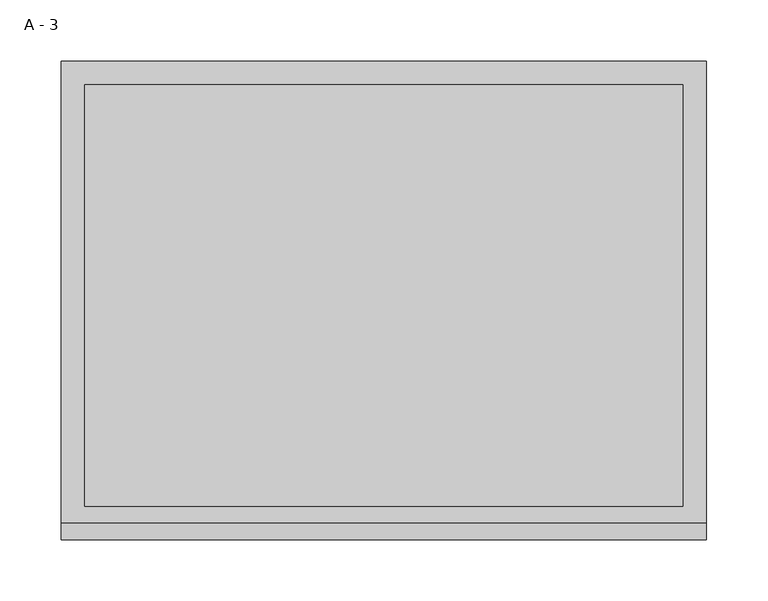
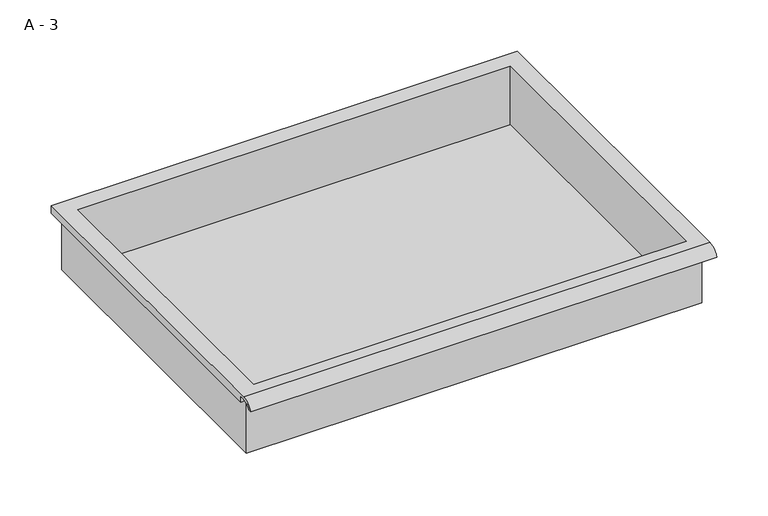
"""IFC4 building model written with IfcOpenShell, lengths in millimetres: furniture geometry, HermanMiller_CoStruc_CO207_Drawer : A - 3."""

from ifc_helpers import new_model, si_unit, frame, origin, place, context, project, spatial, polyline, circle_curve, source, transform, mapped, element, save
from ifc_brep_helpers import plane_surface, cylinder_surface, revolved_surface, advanced_brep


def a_3_2d132fd5(model_context):
    return source(origin(), model_context, "Body", "AdvancedBrep", [
        advanced_brep(
        [(-257.1076517, -176.2125, 854.075), (257.2423483, -176.2125, 854.075), (257.2423483, -176.2125, 917.575), (263.5923483, -176.2125, 917.575), (263.5923483, -176.2125, 923.8821341), (-263.4576517, -176.2125, 923.8821341), (-263.4576517, -176.2125, 917.575), (-257.1076517, -176.2125, 917.575), (257.2423483, 185.7375, 854.075), (-257.1076517, 185.7375, 854.075), (-257.1076517, 185.7375, 917.575), (257.2423483, 185.7375, 917.575), (263.5923483, -181.6070544, 927.1), (263.5923483, 195.2625, 927.1), (-263.4576517, 195.2625, 927.1), (-263.4576517, -181.6070544, 927.1), (244.5423483, -168.275, 927.1), (-244.4076517, -168.275, 927.1), (-244.4076517, 176.2125, 927.1), (244.5423483, 176.2125, 927.1), (263.5923483, -195.2625, 917.575), (263.5923483, -191.8280601, 917.575), (263.5923483, -180.4714815, 923.8821341), (263.5923483, 195.2625, 917.575), (-263.4576517, 195.2625, 917.575), (-263.4576517, -180.4714815, 923.8821341), (-263.4576517, -191.8280601, 917.575), (-263.4576517, -195.2625, 917.575), (-244.4076517, -168.275, 857.1011719), (244.5423483, -168.275, 857.1011719), (244.5423483, 176.2125, 857.1011719), (-244.4076517, 176.2125, 857.1011719)],
        [
            (0, 1),
            (1, 2),
            (2, 3),
            (3, 4),
            (4, 5),
            (5, 6),
            (6, 7),
            (7, 0),
            (8, 9),
            (9, 10),
            (10, 11),
            (11, 8),
            (0, 9),
            (8, 1),
            (11, 2),
            (12, 13),
            (13, 14),
            (14, 15),
            (15, 12),
            (16, 17),
            (17, 18),
            (18, 19),
            (19, 16),
            (7, 10),
            (12, 20, circle_curve(frame((263.5923483, -181.6070544, 912.5489859), z_axis=(1.0, 0.0, 0.0), x_axis=(0.0, 1.0, 0.0)), 14.5510141)),
            (20, 21),
            (21, 22, circle_curve(frame((263.5923483, -181.6070544, 912.5489859), z_axis=(-1.0, 0.0, 0.0), x_axis=(0.0, 1.0, 0.0)), 11.3898979)),
            (22, 4),
            (3, 23),
            (23, 13),
            (14, 24),
            (24, 6),
            (5, 25),
            (25, 26, circle_curve(frame((-263.4576517, -181.6070544, 912.5489859), z_axis=(1.0, 0.0, 0.0), x_axis=(0.0, 1.0, 0.0)), 11.3898979)),
            (26, 27),
            (27, 15, circle_curve(frame((-263.4576517, -181.6070544, 912.5489859), z_axis=(-1.0, 0.0, 0.0), x_axis=(0.0, 1.0, 0.0)), 14.5510141)),
            (27, 20),
            (26, 21),
            (25, 22),
            (24, 23),
            (28, 29),
            (29, 30),
            (30, 31),
            (31, 28),
            (28, 17),
            (16, 29),
            (19, 30),
            (18, 31),
        ],
        [
            plane_surface(frame((257.2423483, -176.2125, 854.075), z_axis=(0.0, -1.0, 0.0), x_axis=(1.0, 0.0, 0.0))),
            plane_surface(frame((257.2423483, 185.7375, 854.075), z_axis=(0.0, 1.0, 0.0), x_axis=(-1.0, 0.0, 0.0))),
            plane_surface(frame((-257.1076517, -176.2125, 854.075), z_axis=(0.0, 0.0, -1.0), x_axis=(0.0, 1.0, 0.0))),
            plane_surface(frame((257.2423483, -176.2125, 854.075), z_axis=(1.0, 0.0, 0.0), x_axis=(0.0, 1.0, 0.0))),
            plane_surface(frame((257.2423483, -176.2125, 927.1), z_axis=(0.0, 0.0, 1.0), x_axis=(0.0, 1.0, 0.0))),
            plane_surface(frame((-257.1076517, -176.2125, 927.1), z_axis=(-1.0, 0.0, 0.0), x_axis=(0.0, 1.0, 0.0))),
            plane_surface(frame((263.5923483, 195.2625, 927.1), z_axis=(1.0, 0.0, 0.0), x_axis=(0.0, -1.0, 0.0))),
            plane_surface(frame((-263.4576517, 195.2625, 927.1), z_axis=(-1.0, 0.0, 0.0), x_axis=(0.0, 1.0, 0.0))),
            cylinder_surface(frame((-263.4576517, -181.6070544, 912.5489859), z_axis=(1.0, 0.0, 0.0), x_axis=(0.0, 1.0, 0.0)), 14.5510141),
            plane_surface(frame((263.5923483, -195.2625, 917.575), z_axis=(0.0, -7.212409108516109e-12, -1.0), x_axis=(-1.0, 0.0, 0.0))),
            revolved_surface(polyline([(-263.4576517, -170.21715650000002, 912.5489859), (263.59234829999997, -170.21715650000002, 912.5489859)]), (-263.4576517, -181.6070544, 912.5489859), (-1.0, 0.0, 0.0)),
            plane_surface(frame((263.5923483, -180.4714815, 923.8821341), z_axis=(0.0, -1.782962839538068e-11, -1.0), x_axis=(-1.0, 0.0, 0.0))),
            plane_surface(frame((263.5923483, -176.2125, 917.575), z_axis=(0.0, 0.0, -1.0), x_axis=(-1.0, 0.0, 0.0))),
            plane_surface(frame((263.5923483, 195.2625, 917.575), z_axis=(0.0, 1.0, 0.0), x_axis=(-1.0, 0.0, 0.0))),
            plane_surface(frame((244.5423483, -168.275, 857.1011719), z_axis=(0.0, 0.0, 1.0), x_axis=(-1.0, 0.0, 0.0))),
            plane_surface(frame((-244.4076517, -168.275, 927.1), z_axis=(0.0, 1.0, 0.0), x_axis=(0.0, 0.0, -1.0))),
            plane_surface(frame((244.5423483, -168.275, 927.1), z_axis=(-1.0, 0.0, 0.0), x_axis=(0.0, 0.0, -1.0))),
            plane_surface(frame((244.5423483, 176.2125, 927.1), z_axis=(0.0, -1.0, 0.0), x_axis=(0.0, 0.0, -1.0))),
            plane_surface(frame((-244.4076517, 176.2125, 927.1), z_axis=(1.0, 0.0, 0.0), x_axis=(0.0, 0.0, -1.0))),
        ],
        [
            (0, [[1, 2, 3, 4, 5, 6, 7, 8]]),
            (1, [[9, 10, 11, 12]]),
            (2, [[-1, 13, -9, 14]]),
            (3, [[-14, -12, 15, -2]]),
            (4, [[16, 17, 18, 19], [20, 21, 22, 23]]),
            (5, [[-13, -8, 24, -10]]),
            (6, [[-16, 25, 26, 27, 28, -4, 29, 30]]),
            (7, [[31, 32, -6, 33, 34, 35, 36, -18]]),
            (8, [[-25, -19, -36, 37]]),
            (9, [[-26, -37, -35, 38]]),
            (10, [[-27, -38, -34, 39]]),
            (11, [[-28, -39, -33, -5]]),
            (12, [[-29, -3, -15, -11, -24, -7, -32, 40]]),
            (13, [[-30, -40, -31, -17]]),
            (14, [[41, 42, 43, 44]]),
            (15, [[-41, 45, -20, 46]]),
            (16, [[-42, -46, -23, 47]]),
            (17, [[-43, -47, -22, 48]]),
            (18, [[-44, -48, -21, -45]]),
        ],
    ),
    ])


if __name__ == "__main__":
    model = new_model("IFC4")
    model_context = context("Model", 3, world=origin())
    ifc_project = project(units=[si_unit("LENGTHUNIT", "METRE", prefix="MILLI")], contexts=[model_context])
    site = spatial("IfcSite", under=ifc_project)
    building = spatial("IfcBuilding", under=site)
    placement = place(None, origin())
    a_3_shape = a_3_2d132fd5(model_context)
    element("IfcFurniture", 1, ObjectType="HermanMiller_CoStruc_CO207_Drawer : A - 3", at=placement, inside=building, context=model_context, shape_type="MappedRepresentation", body=[
        mapped(a_3_shape, transform((0.0, 0.0, 0.0), x_axis=(1.0, 0.0, 0.0), y_axis=(0.0, 1.0, 0.0), z_axis=(0.0, 0.0, 1.0))),
    ])
    save(model, "model.ifc")
